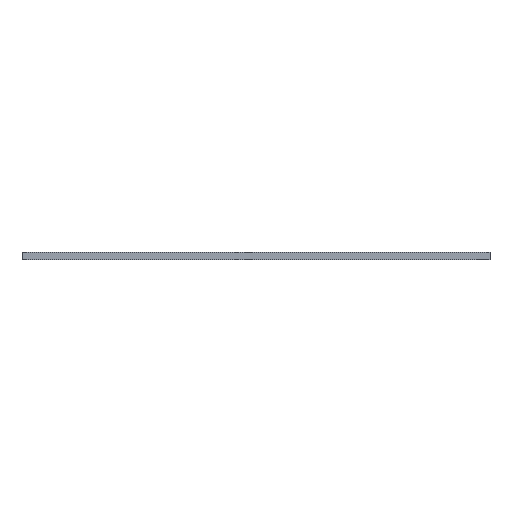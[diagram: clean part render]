
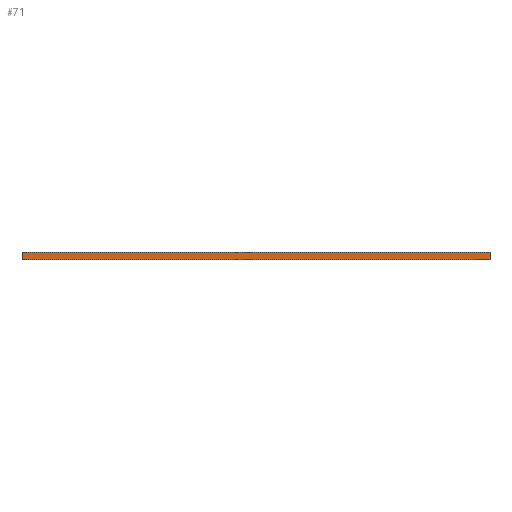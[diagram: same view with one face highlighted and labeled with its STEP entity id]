
A CAD part, left-side view. The second image highlights one B-rep face of the part: STEP entity #71.
In plain terms, the highlighted planar face has unit normal (-1, 0, 0).
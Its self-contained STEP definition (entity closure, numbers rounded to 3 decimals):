
#71=ADVANCED_FACE('',(#136),#2571,.T.);
#136=FACE_OUTER_BOUND('',#201,.T.);
#201=EDGE_LOOP('',(#319,#320,#321,#322));
#319=ORIENTED_EDGE('',*,*,#1920,.T.);
#320=ORIENTED_EDGE('',*,*,#1921,.T.);
#321=ORIENTED_EDGE('',*,*,#1922,.T.);
#322=ORIENTED_EDGE('',*,*,#1918,.F.);
#974=PCURVE('',#2570,#1352);
#977=PCURVE('',#2571,#1355);
#978=PCURVE('',#2571,#1356);
#979=PCURVE('',#2571,#1357);
#980=PCURVE('',#2571,#1358);
#984=PCURVE('',#2572,#1362);
#1140=PCURVE('',#2575,#1518);
#1203=PCURVE('',#2576,#1581);
#1352=DEFINITIONAL_REPRESENTATION('',(#2117),#5251);
#1355=DEFINITIONAL_REPRESENTATION('',(#2122),#5251);
#1356=DEFINITIONAL_REPRESENTATION('',(#2124),#5251);
#1357=DEFINITIONAL_REPRESENTATION('',(#2126),#5251);
#1358=DEFINITIONAL_REPRESENTATION('',(#2127),#5251);
#1362=DEFINITIONAL_REPRESENTATION('',(#2134),#5251);
#1518=DEFINITIONAL_REPRESENTATION('',(#2295),#5251);
#1581=DEFINITIONAL_REPRESENTATION('',(#2302),#5251);
#1729=SURFACE_CURVE('',#2116,(#974,#980),.PCURVE_S1.);
#1731=SURFACE_CURVE('',#2121,(#977,#1140),.PCURVE_S1.);
#1732=SURFACE_CURVE('',#2123,(#978,#984),.PCURVE_S1.);
#1733=SURFACE_CURVE('',#2125,(#979,#1203),.PCURVE_S1.);
#1918=EDGE_CURVE('',#2392,#2393,#1729,.T.);
#1920=EDGE_CURVE('',#2392,#2394,#1731,.T.);
#1921=EDGE_CURVE('',#2394,#2395,#1732,.T.);
#1922=EDGE_CURVE('',#2395,#2393,#1733,.T.);
#2116=B_SPLINE_CURVE_WITH_KNOTS('',1,(#3606,#3607),.UNSPECIFIED.,.F.,.F.,
(2,2),(0.,3.),.UNSPECIFIED.);
#2117=B_SPLINE_CURVE_WITH_KNOTS('',1,(#3608,#3609),.UNSPECIFIED.,.F.,.F.,
(2,2),(0.,3.),.UNSPECIFIED.);
#2121=B_SPLINE_CURVE_WITH_KNOTS('',1,(#3616,#3617),.UNSPECIFIED.,.F.,.F.,
(2,2),(415.174,526.705),.UNSPECIFIED.);
#2122=B_SPLINE_CURVE_WITH_KNOTS('',1,(#3618,#3619),.UNSPECIFIED.,.F.,.F.,
(2,2),(415.174,526.705),.UNSPECIFIED.);
#2123=B_SPLINE_CURVE_WITH_KNOTS('',1,(#3620,#3621),.UNSPECIFIED.,.F.,.F.,
(2,2),(0.,3.),.UNSPECIFIED.);
#2124=B_SPLINE_CURVE_WITH_KNOTS('',1,(#3622,#3623),.UNSPECIFIED.,.F.,.F.,
(2,2),(0.,3.),.UNSPECIFIED.);
#2125=B_SPLINE_CURVE_WITH_KNOTS('',1,(#3624,#3625),.UNSPECIFIED.,.F.,.F.,
(2,2),(-526.705,-415.174),.UNSPECIFIED.);
#2126=B_SPLINE_CURVE_WITH_KNOTS('',1,(#3626,#3627),.UNSPECIFIED.,.F.,.F.,
(2,2),(-526.705,-415.174),.UNSPECIFIED.);
#2127=B_SPLINE_CURVE_WITH_KNOTS('',1,(#3628,#3629),.UNSPECIFIED.,.F.,.F.,
(2,2),(0.,3.),.UNSPECIFIED.);
#2134=B_SPLINE_CURVE_WITH_KNOTS('',1,(#3642,#3643),.UNSPECIFIED.,.F.,.F.,
(2,2),(0.,3.),.UNSPECIFIED.);
#2295=B_SPLINE_CURVE_WITH_KNOTS('',1,(#4372,#4373),.UNSPECIFIED.,.F.,.F.,
(2,2),(415.174,526.705),.UNSPECIFIED.);
#2302=B_SPLINE_CURVE_WITH_KNOTS('',1,(#4734,#4735),.UNSPECIFIED.,.F.,.F.,
(2,2),(-526.705,-415.174),.UNSPECIFIED.);
#2392=VERTEX_POINT('',#3452);
#2393=VERTEX_POINT('',#3453);
#2394=VERTEX_POINT('',#3454);
#2395=VERTEX_POINT('',#3455);
#2570=PLANE('',#2599);
#2571=PLANE('',#2600);
#2572=PLANE('',#2601);
#2575=PLANE('',#2604);
#2576=PLANE('',#2605);
#2599=AXIS2_PLACEMENT_3D('',#2623,#2611,$);
#2600=AXIS2_PLACEMENT_3D('',#2624,#2612,$);
#2601=AXIS2_PLACEMENT_3D('',#2625,#2613,$);
#2604=AXIS2_PLACEMENT_3D('',#3084,#2616,$);
#2605=AXIS2_PLACEMENT_3D('',#3085,#2617,$);
#2611=DIRECTION('',(0.,1.,0.));
#2612=DIRECTION('',(-1.,0.,0.));
#2613=DIRECTION('',(0.,-1.,0.));
#2616=DIRECTION('',(0.,0.,-1.));
#2617=DIRECTION('',(0.,0.,1.));
#2623=CARTESIAN_POINT('',(352.,531.031,-117.));
#2624=CARTESIAN_POINT('',(219.,531.031,-117.));
#2625=CARTESIAN_POINT('',(219.,335.,-117.));
#3084=CARTESIAN_POINT('',(219.,335.,-117.));
#3085=CARTESIAN_POINT('',(219.,335.,-114.));
#3452=CARTESIAN_POINT('',(219.,531.031,-117.));
#3453=CARTESIAN_POINT('',(219.,531.031,-114.));
#3454=CARTESIAN_POINT('',(219.,335.,-117.));
#3455=CARTESIAN_POINT('',(219.,335.,-114.));
#3606=CARTESIAN_POINT('',(219.,531.031,-117.));
#3607=CARTESIAN_POINT('',(219.,531.031,-114.));
#3608=CARTESIAN_POINT('',(415.174,0.));
#3609=CARTESIAN_POINT('',(415.174,3.));
#3616=CARTESIAN_POINT('',(219.,531.031,-117.));
#3617=CARTESIAN_POINT('',(219.,335.,-117.));
#3618=CARTESIAN_POINT('',(415.174,0.));
#3619=CARTESIAN_POINT('',(526.705,0.));
#3620=CARTESIAN_POINT('',(219.,335.,-117.));
#3621=CARTESIAN_POINT('',(219.,335.,-114.));
#3622=CARTESIAN_POINT('',(526.705,0.));
#3623=CARTESIAN_POINT('',(526.705,3.));
#3624=CARTESIAN_POINT('',(219.,335.,-114.));
#3625=CARTESIAN_POINT('',(219.,531.031,-114.));
#3626=CARTESIAN_POINT('',(526.705,3.));
#3627=CARTESIAN_POINT('',(415.174,3.));
#3628=CARTESIAN_POINT('',(415.174,0.));
#3629=CARTESIAN_POINT('',(415.174,3.));
#3642=CARTESIAN_POINT('',(526.705,0.));
#3643=CARTESIAN_POINT('',(526.705,3.));
#4372=CARTESIAN_POINT('',(20.,-31.8));
#4373=CARTESIAN_POINT('',(-176.031,-31.8));
#4734=CARTESIAN_POINT('',(-31.8,-176.031));
#4735=CARTESIAN_POINT('',(-31.8,20.));
#5251=(
GEOMETRIC_REPRESENTATION_CONTEXT(2)
PARAMETRIC_REPRESENTATION_CONTEXT()
REPRESENTATION_CONTEXT('pspace','')
);
